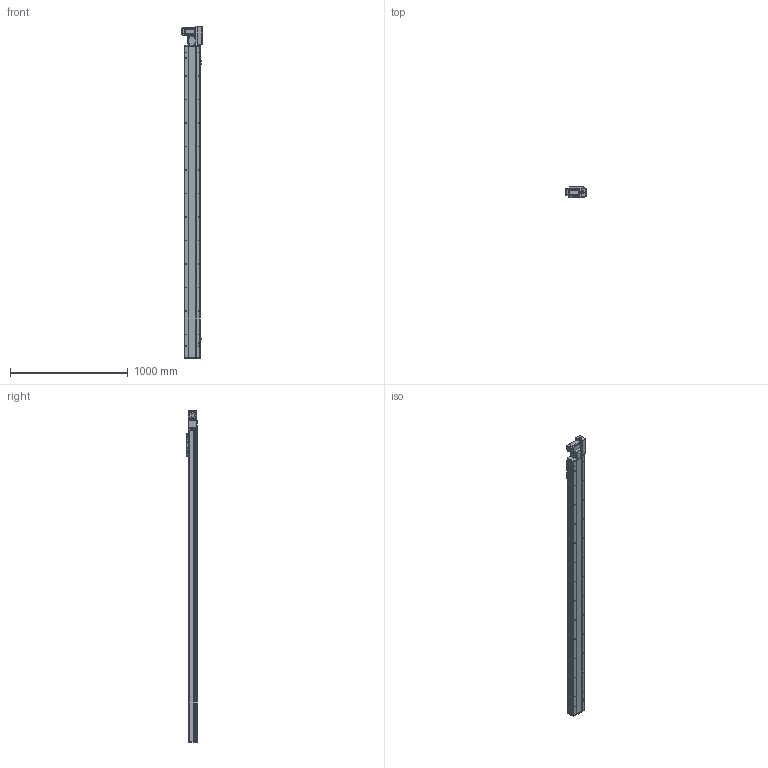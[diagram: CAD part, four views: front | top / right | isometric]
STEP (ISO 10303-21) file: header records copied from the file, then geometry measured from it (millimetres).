
FILE_DESCRIPTION (( 'STEP AP214' ), '1' );
FILE_NAME ('TPE14-L40-2350-R-T40-C4.STEP', '2023-04-13T06:16:48', ( '' ), ( '' ), 'SwSTEP 2.0', 'SolidWorks 2020', '' );
FILE_SCHEMA (( 'AUTOMOTIVE_DESIGN' ));
Length unit declared in the file: millimetre
Products named in the file (10): 葩璃 pm-t65-672^TPE14-L40-R-T40-C4; TPE14-L40-2350-R-T40-C4; 葩璃 TPE14-L-007 々湍釱MZ-169x88^TPE14-L40-R-T40-C4_YCB14; 葩璃 TPE14-L-002 耜裔ZTMZ-135-04^TPE14-L40-R-T40-C4; 葩璃 詩湍75^TPE14-L40-R-T40-C4; hexagon head bolts-full thread gb_GB_FASTENER_BOLT_STBAB A M5X16-N; 葩璃 TPT14-L-009 萇儂啣^TPE14-L40-R-T40-C4_400W; 葩璃 侂狟400W^TPE14-L40-R-T40-C4; 葩璃 TPE14-L-001 菁釱MZ-135-01^TPE14-L40-R-T40-C4; 葩璃 TPE14 賑雄殤^TPE14-L40-R-T40-C4
Assembly tree (12 placements, depth 2):
  TPE14-L40-2350-R-T40-C4
    葩璃 TPE14-L-001 菁釱MZ-135-01^TPE14-L40-R-T40-C4
    葩璃 TPE14-L-002 耜裔ZTMZ-135-04^TPE14-L40-R-T40-C4  x2
    葩璃 詩湍75^TPE14-L40-R-T40-C4
    葩璃 TPE14-L-007 々湍釱MZ-169x88^TPE14-L40-R-T40-C4_YCB14
    葩璃 TPT14-L-009 萇儂啣^TPE14-L40-R-T40-C4_400W
    葩璃 TPE14 賑雄殤^TPE14-L40-R-T40-C4
    葩璃 pm-t65-672^TPE14-L40-R-T40-C4  x3
    葩璃 侂狟400W^TPE14-L40-R-T40-C4
    hexagon head bolts-full thread gb_GB_FASTENER_BOLT_STBAB A M5X16-N
Bounding box: 172.5 x 91 x 2825.15 mm (x, y, z)
Volume: 13581562.3 mm3; surface area: 2553706.9 mm2
Topology: 23 solids, 23 shells, 1468 faces, 3807 edges, 2400 vertices
Faces by surface type: plane 823, cylinder 449, cone 162, bspline 34
Entity records: 39359 total; most frequent: CARTESIAN_POINT 7592, DIRECTION 6288, ORIENTED_EDGE 6050, EDGE_CURVE 3025, AXIS2_PLACEMENT_3D 2150, LINE 1988, VECTOR 1988, VERTEX_POINT 1948
